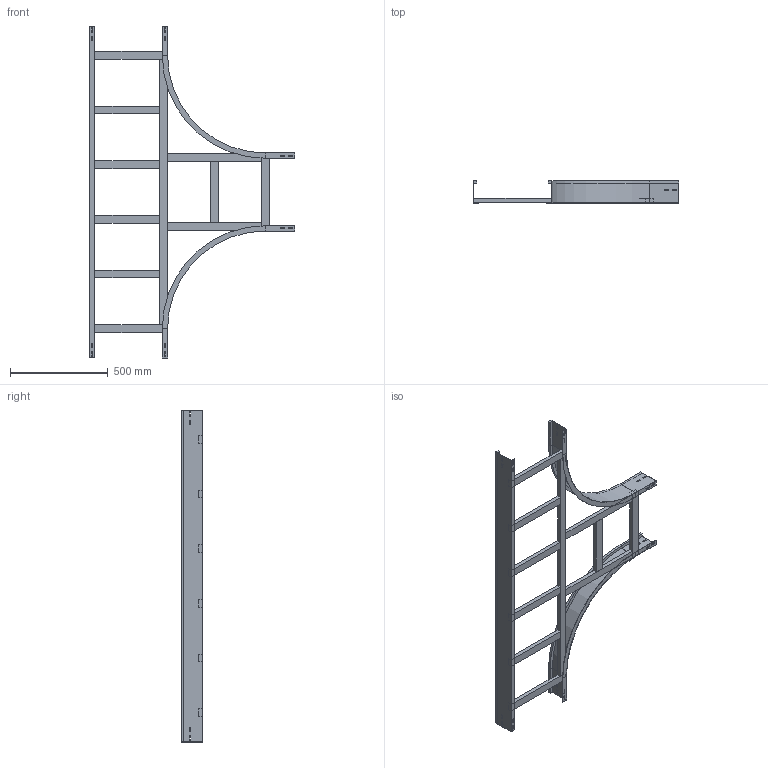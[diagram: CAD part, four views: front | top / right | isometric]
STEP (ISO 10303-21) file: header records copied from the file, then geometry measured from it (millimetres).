
FILE_DESCRIPTION (( 'STEP AP214' ), '1' );
FILE_NAME ('15B5J400.step', '2025-02-21T15:50:42', ( '' ), ( '' ), 'SwSTEP 2.0', 'SolidWorks 2023', '' );
FILE_SCHEMA (( 'AUTOMOTIVE_DESIGN' ));
Length unit declared in the file: millimetre
Products named in the file (8): LONGH.RETT_H112.5_R500+400; TRAVERSINO_COPPIA_400; 15B5J400; TRAVERSINO_INTERMEDIO_R500+400; TRAVERSINO_VERT_R500; TRAVERSINO_400; LONGH.INTERNO 90°_H112.5_R500; TRAVERSINO_LONG._R500+400
Assembly tree (14 placements, depth 2):
  15B5J400
    LONGH.INTERNO 90°_H112.5_R500  x2
    LONGH.RETT_H112.5_R500+400
    TRAVERSINO_400  x3
    TRAVERSINO_LONG._R500+400
    TRAVERSINO_INTERMEDIO_R500+400  x4
    TRAVERSINO_VERT_R500  x2
    TRAVERSINO_COPPIA_400
Bounding box: 1050 x 112.5 x 1700 mm (x, y, z)
Volume: 6060166.3 mm3; surface area: 1859602.3 mm2
Topology: 14 solids, 14 shells, 224 faces, 556 edges, 360 vertices
Faces by surface type: plane 216, cylinder 8
Entity records: 4209 total; most frequent: CARTESIAN_POINT 695, ORIENTED_EDGE 664, DIRECTION 634, EDGE_CURVE 332, VECTOR 324, LINE 324, VERTEX_POINT 216, EDGE_LOOP 162
